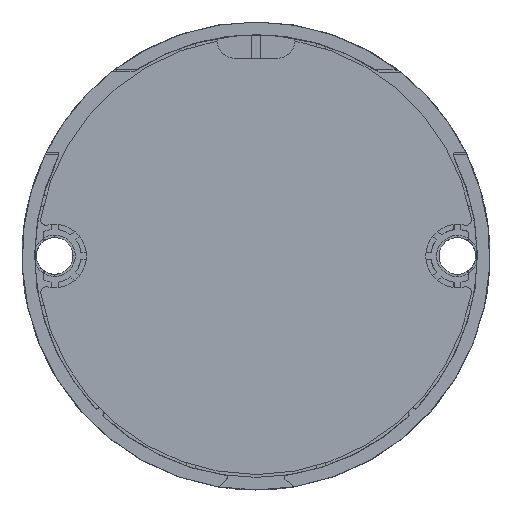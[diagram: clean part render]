
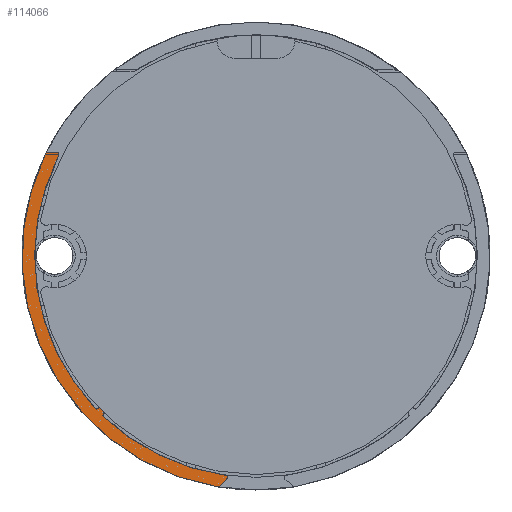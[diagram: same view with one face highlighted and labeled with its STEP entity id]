
A CAD part, front view. The second image highlights one B-rep face of the part: STEP entity #114066.
In plain terms, the highlighted planar face has unit normal (0, -1, 0).
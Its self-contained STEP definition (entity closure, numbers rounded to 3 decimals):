
#5030 = CARTESIAN_POINT ( 'NONE',  ( -17.338, 1.3, 8.8 ) ) ;
#12167 = CARTESIAN_POINT ( 'NONE',  ( -17.338, 1.3, 8.8 ) ) ;
#18196 = CARTESIAN_POINT ( 'NONE',  ( -13.602, 1.3, -13.205 ) ) ;
#19976 = EDGE_CURVE ( 'NONE', #43650, #131202, #63907, .T. ) ;
#21252 = CIRCLE ( 'NONE', #116811, 0.2 ) ;
#21254 = CARTESIAN_POINT ( 'NONE',  ( -3.185, 1.3, -20.014 ) ) ;
#21445 = CARTESIAN_POINT ( 'NONE',  ( 0., 1.3, 0. ) ) ;
#21512 = EDGE_CURVE ( 'NONE', #131202, #123205, #52621, .T. ) ;
#21605 = DIRECTION ( 'NONE',  ( 0., -1., 0. ) ) ;
#23453 = DIRECTION ( 'NONE',  ( 0., 0., 1. ) ) ;
#25818 = ORIENTED_EDGE ( 'NONE', *, *, #55815, .T. ) ;
#26340 = CARTESIAN_POINT ( 'NONE',  ( -2.533, 1.3, -19.405 ) ) ;
#26344 = ORIENTED_EDGE ( 'NONE', *, *, #116865, .T. ) ;
#27027 = CARTESIAN_POINT ( 'NONE',  ( -3.321, 1.3, -19.868 ) ) ;
#27617 = DIRECTION ( 'NONE',  ( 0., 1., 0. ) ) ;
#29513 = DIRECTION ( 'NONE',  ( 0., -1., 0. ) ) ;
#30006 = ORIENTED_EDGE ( 'NONE', *, *, #79200, .T. ) ;
#32685 = DIRECTION ( 'NONE',  ( 0., 0., -1. ) ) ;
#35848 = EDGE_CURVE ( 'NONE', #121595, #115772, #39700, .T. ) ;
#36959 = DIRECTION ( 'NONE',  ( 0., 1., 0. ) ) ;
#38738 = AXIS2_PLACEMENT_3D ( 'NONE', #88790, #21605, #100154 ) ;
#39160 = AXIS2_PLACEMENT_3D ( 'NONE', #104216, #36959, #115500 ) ;
#39700 = CIRCLE ( 'NONE', #111722, 0.2 ) ;
#39822 = EDGE_CURVE ( 'NONE', #50810, #77509, #127419, .T. ) ;
#41330 = DIRECTION ( 'NONE',  ( 0., -1., 0. ) ) ;
#43650 = VERTEX_POINT ( 'NONE', #135345 ) ;
#44287 = ORIENTED_EDGE ( 'NONE', *, *, #21512, .T. ) ;
#45095 = CARTESIAN_POINT ( 'NONE',  ( -17.338, 1.3, 9. ) ) ;
#45245 = DIRECTION ( 'NONE',  ( 0., -1., 0. ) ) ;
#49899 = VECTOR ( 'NONE', #139131, 1000. ) ;
#50541 = VERTEX_POINT ( 'NONE', #67965 ) ;
#50810 = VERTEX_POINT ( 'NONE', #60550 ) ;
#51214 = DIRECTION ( 'NONE',  ( -1., 0., 0. ) ) ;
#52287 = CIRCLE ( 'NONE', #125575, 19.243 ) ;
#52621 = CIRCLE ( 'NONE', #38738, 0.2 ) ;
#55815 = EDGE_CURVE ( 'NONE', #123205, #121595, #79741, .T. ) ;
#56615 = AXIS2_PLACEMENT_3D ( 'NONE', #112494, #45245, #123801 ) ;
#60550 = CARTESIAN_POINT ( 'NONE',  ( -13.32, 1.3, -13.888 ) ) ;
#60592 = CARTESIAN_POINT ( 'NONE',  ( -13.602, 1.3, -13.605 ) ) ;
#62258 = FACE_OUTER_BOUND ( 'NONE', #62986, .T. ) ;
#62758 = LINE ( 'NONE', #73349, #119000 ) ;
#62854 = ORIENTED_EDGE ( 'NONE', *, *, #35848, .T. ) ;
#62986 = EDGE_LOOP ( 'NONE', ( #90108, #30006, #26344, #129679, #132218, #44287, #25818, #62854, #106727, #87938, #130634 ) ) ;
#63810 = AXIS2_PLACEMENT_3D ( 'NONE', #108574, #41330, #119888 ) ;
#63907 = CIRCLE ( 'NONE', #83645, 0.2 ) ;
#65134 = CIRCLE ( 'NONE', #79295, 0.4 ) ;
#67965 = CARTESIAN_POINT ( 'NONE',  ( -18.244, 1.3, 9. ) ) ;
#71867 = DIRECTION ( 'NONE',  ( 0., 0., 1. ) ) ;
#73349 = CARTESIAN_POINT ( 'NONE',  ( -18.244, 1.3, 9. ) ) ;
#77509 = VERTEX_POINT ( 'NONE', #18196 ) ;
#77716 = VERTEX_POINT ( 'NONE', #45095 ) ;
#79200 = EDGE_CURVE ( 'NONE', #131973, #77716, #21252, .T. ) ;
#79295 = AXIS2_PLACEMENT_3D ( 'NONE', #60592, #139084, #71867 ) ;
#79741 = LINE ( 'NONE', #26340, #49899 ) ;
#82340 = CARTESIAN_POINT ( 'NONE',  ( -2.533, 1.3, -19.405 ) ) ;
#83645 = AXIS2_PLACEMENT_3D ( 'NONE', #27027, #142210, #91678 ) ;
#85154 = VERTEX_POINT ( 'NONE', #110509 ) ;
#87938 = ORIENTED_EDGE ( 'NONE', *, *, #39822, .T. ) ;
#88790 = CARTESIAN_POINT ( 'NONE',  ( -3.321, 1.3, -19.868 ) ) ;
#90108 = ORIENTED_EDGE ( 'NONE', *, *, #90427, .T. ) ;
#90427 = EDGE_CURVE ( 'NONE', #85154, #131973, #121999, .T. ) ;
#90655 = DIRECTION ( 'NONE',  ( 0., -1., 0. ) ) ;
#91678 = DIRECTION ( 'NONE',  ( 0., 0., 1. ) ) ;
#94817 = PLANE ( 'NONE',  #134273 ) ;
#96724 = CARTESIAN_POINT ( 'NONE',  ( -2.67, 1.3, -19.259 ) ) ;
#99988 = DIRECTION ( 'NONE',  ( 0., 1., 0. ) ) ;
#100154 = DIRECTION ( 'NONE',  ( 0., 0., 1. ) ) ;
#104216 = CARTESIAN_POINT ( 'NONE',  ( 0., 1.3, 0. ) ) ;
#106153 = DIRECTION ( 'NONE',  ( 0., 0., 1. ) ) ;
#106727 = ORIENTED_EDGE ( 'NONE', *, *, #137359, .T. ) ;
#108058 = DIRECTION ( 'NONE',  ( 0., 0., 1. ) ) ;
#108574 = CARTESIAN_POINT ( 'NONE',  ( 0., 1.3, 0. ) ) ;
#110509 = CARTESIAN_POINT ( 'NONE',  ( -13.885, 1.3, -13.323 ) ) ;
#111722 = AXIS2_PLACEMENT_3D ( 'NONE', #96724, #29513, #108058 ) ;
#112494 = CARTESIAN_POINT ( 'NONE',  ( -13.602, 1.3, -13.605 ) ) ;
#112607 = CIRCLE ( 'NONE', #63810, 20.343 ) ;
#114066 = ADVANCED_FACE ( 'NONE', ( #62258 ), #94817, .F. ) ;
#115500 = DIRECTION ( 'NONE',  ( 0., 0., -1. ) ) ;
#115772 = VERTEX_POINT ( 'NONE', #127763 ) ;
#116811 = AXIS2_PLACEMENT_3D ( 'NONE', #12167, #90655, #23453 ) ;
#116865 = EDGE_CURVE ( 'NONE', #77716, #50541, #62758, .T. ) ;
#119000 = VECTOR ( 'NONE', #51214, 1000. ) ;
#119744 = CARTESIAN_POINT ( 'NONE',  ( -17.159, 1.3, 8.709 ) ) ;
#119888 = DIRECTION ( 'NONE',  ( 0., 0., 1. ) ) ;
#121595 = VERTEX_POINT ( 'NONE', #82340 ) ;
#121999 = CIRCLE ( 'NONE', #39160, 19.243 ) ;
#123205 = VERTEX_POINT ( 'NONE', #21254 ) ;
#123801 = DIRECTION ( 'NONE',  ( 0., 0., 1. ) ) ;
#125575 = AXIS2_PLACEMENT_3D ( 'NONE', #21445, #99988, #32685 ) ;
#127419 = CIRCLE ( 'NONE', #56615, 0.4 ) ;
#127763 = CARTESIAN_POINT ( 'NONE',  ( -2.642, 1.3, -19.061 ) ) ;
#129679 = ORIENTED_EDGE ( 'NONE', *, *, #132854, .T. ) ;
#130634 = ORIENTED_EDGE ( 'NONE', *, *, #136231, .T. ) ;
#131202 = VERTEX_POINT ( 'NONE', #135187 ) ;
#131973 = VERTEX_POINT ( 'NONE', #119744 ) ;
#132218 = ORIENTED_EDGE ( 'NONE', *, *, #19976, .T. ) ;
#132854 = EDGE_CURVE ( 'NONE', #50541, #43650, #112607, .T. ) ;
#134273 = AXIS2_PLACEMENT_3D ( 'NONE', #5030, #27617, #106153 ) ;
#135187 = CARTESIAN_POINT ( 'NONE',  ( -3.321, 1.3, -20.068 ) ) ;
#135345 = CARTESIAN_POINT ( 'NONE',  ( -3.354, 1.3, -20.065 ) ) ;
#136231 = EDGE_CURVE ( 'NONE', #77509, #85154, #65134, .T. ) ;
#137359 = EDGE_CURVE ( 'NONE', #115772, #50810, #52287, .T. ) ;
#139084 = DIRECTION ( 'NONE',  ( 0., -1., 0. ) ) ;
#139131 = DIRECTION ( 'NONE',  ( 0.731, 0., 0.683 ) ) ;
#142210 = DIRECTION ( 'NONE',  ( 0., -1., 0. ) ) ;
